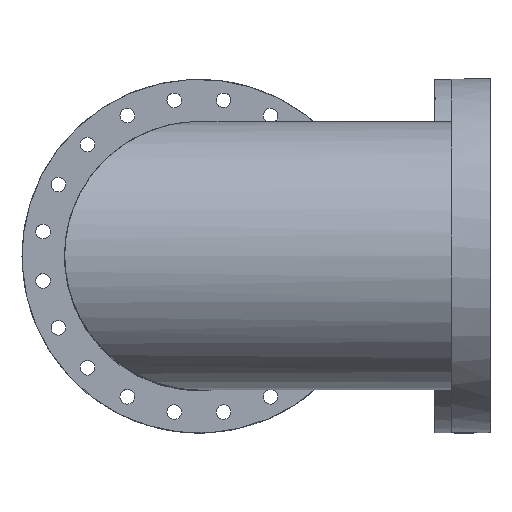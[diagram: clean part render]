
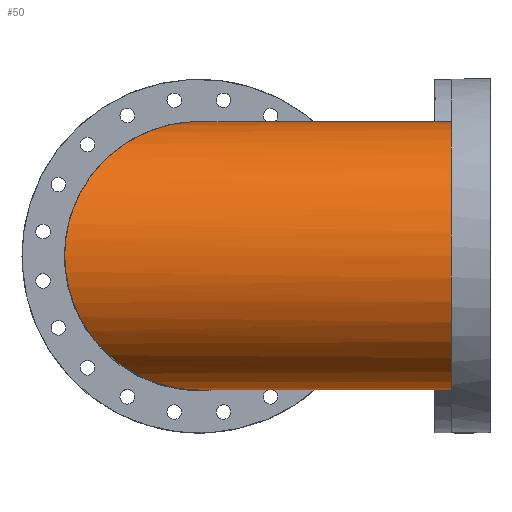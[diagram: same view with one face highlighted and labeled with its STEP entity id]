
A CAD part, top view. The second image highlights one B-rep face of the part: STEP entity #50.
In plain terms, the highlighted cylindrical face has radius 77 mm (diameter 154 mm), a full revolution.
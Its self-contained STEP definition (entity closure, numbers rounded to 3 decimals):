
#50 = ADVANCED_FACE( '', ( #88, #89 ), #90, .T. );
#88 = FACE_OUTER_BOUND( '', #124, .T. );
#89 = FACE_OUTER_BOUND( '', #125, .T. );
#90 = CYLINDRICAL_SURFACE( '', #126, 77. );
#124 = EDGE_LOOP( '', ( #190 ) );
#125 = EDGE_LOOP( '', ( #191 ) );
#126 = AXIS2_PLACEMENT_3D( '', #192, #193, #194 );
#190 = ORIENTED_EDGE( '', *, *, #338, .F. );
#191 = ORIENTED_EDGE( '', *, *, #342, .F. );
#192 = CARTESIAN_POINT( '', ( -157.5, 0., 250. ) );
#193 = DIRECTION( '', ( 0., 0., 1. ) );
#194 = DIRECTION( '', ( -1., 0., 0. ) );
#338 = EDGE_CURVE( '', #482, #482, #483, .F. );
#342 = EDGE_CURVE( '', #488, #488, #489, .T. );
#482 = VERTEX_POINT( '', #713 );
#483 = ELLIPSE( '', #714, 108.894, 77. );
#488 = VERTEX_POINT( '', #719 );
#489 = CIRCLE( '', #720, 77. );
#713 = CARTESIAN_POINT( '', ( -80.5, 0., 80.5 ) );
#714 = AXIS2_PLACEMENT_3D( '', #785, #786, #787 );
#719 = CARTESIAN_POINT( '', ( -80.5, 0., 0. ) );
#720 = AXIS2_PLACEMENT_3D( '', #791, #792, #793 );
#785 = CARTESIAN_POINT( '', ( -157.5, 0., 157.5 ) );
#786 = DIRECTION( '', ( -0.707, 0., -0.707 ) );
#787 = DIRECTION( '', ( 0.707, 0., -0.707 ) );
#791 = CARTESIAN_POINT( '', ( -157.5, 0., 0. ) );
#792 = DIRECTION( '', ( 0., 0., -1. ) );
#793 = DIRECTION( '', ( 1., 0., 0. ) );
